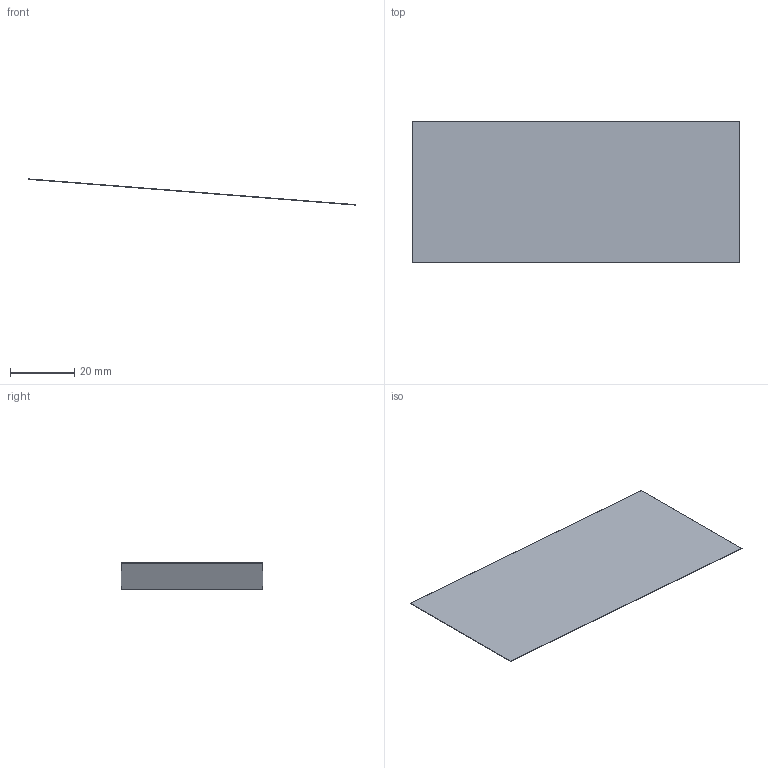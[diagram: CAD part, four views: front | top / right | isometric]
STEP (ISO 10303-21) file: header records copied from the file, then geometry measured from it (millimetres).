
FILE_DESCRIPTION(('Open CASCADE Model'),'2;1');
FILE_NAME('Open CASCADE Shape Model','2026-10-04T01:02:32',('Author'),( 'Open CASCADE'),'Open CASCADE STEP processor 8.0','Open CASCADE 8.0' ,'Unknown');
FILE_SCHEMA(('AUTOMOTIVE_DESIGN { 1 0 10303 214 1 1 1 1 }'));
Length unit declared in the file: millimetre
Products named in the file (1): Open CASCADE STEP translator 8.0 284
Bounding box: 101.7 x 44 x 8.14 mm (x, y, z)
Volume: 673.2 mm3; surface area: 9019.8 mm2
Topology: 1 solids, 1 shells, 6 faces, 12 edges, 8 vertices
Faces by surface type: plane 6
Entity records: 322 total; most frequent: CARTESIAN_POINT 51, DIRECTION 50, LINE 36, VECTOR 36, ORIENTED_EDGE 24, PCURVE 24, DEFINITIONAL_REPRESENTATION 24, EDGE_CURVE 12
